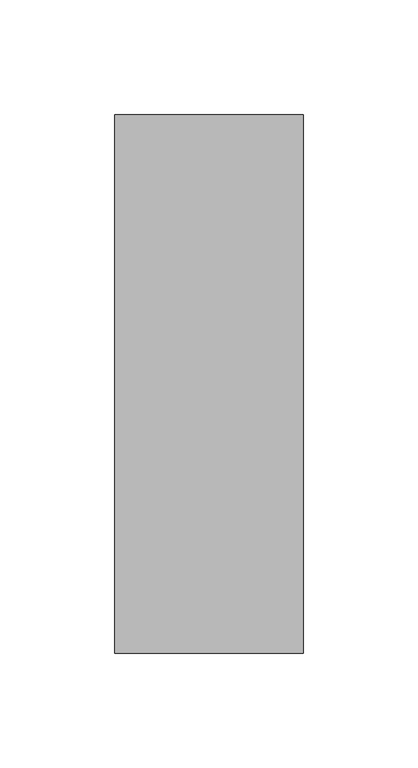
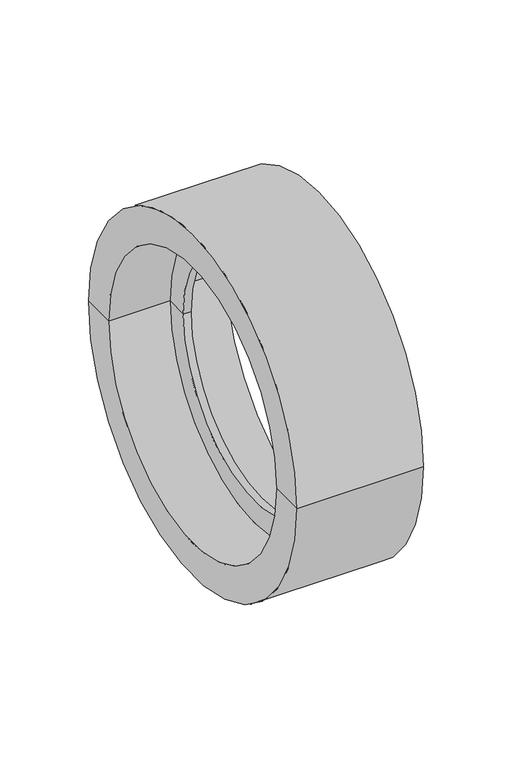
"""IFC4 building model written with IfcOpenShell, lengths in millimetres: duct fitting geometry, NLRS_57_DUF_UN_expander_M&G : ø160/ ø190."""

from ifc_helpers import new_model, si_unit, frame, origin, place, context, project, spatial, polyline, circle_curve, source, transform, mapped, element, save
from ifc_brep_helpers import plane_surface, cylinder_surface, revolved_surface, advanced_brep


def duct_fitting_57cca4c8(model_context):
    return source(origin(), model_context, "Body", "AdvancedBrep", [
        advanced_brep(
        [(-42.5, -117.5, 0.0), (-42.5, 117.5, 0.0), (39.8268393, 117.5, 0.0), (39.8268393, -117.5, 0.0), (-42.5, -95.0, 0.0), (-42.5, 95.0, 0.0), (-2.5, -95.0, 0.0), (-2.5, 95.0, 0.0), (-2.5, -80.0, 0.0), (-2.5, 80.0, 0.0), (2.5, -105.0, 0.0), (2.5, 105.0, 0.0), (2.5, 80.0, 0.0), (2.5, -80.0, 0.0), (39.8268393, -105.0, 0.0), (39.8268393, 105.0, 0.0)],
        [
            (0, 1, circle_curve(frame((-42.5, 0.0, 0.0), z_axis=(1.0, 0.0, 0.0), x_axis=(0.0, 1.0, 0.0)), 117.5)),
            (1, 2),
            (2, 3, circle_curve(frame((39.8268393, 0.0, 0.0), z_axis=(-1.0, 0.0, 0.0), x_axis=(0.0, 1.0, 0.0)), 117.5)),
            (3, 0),
            (1, 0, circle_curve(frame((-42.5, 0.0, 0.0), z_axis=(1.0, 0.0, 0.0), x_axis=(0.0, 1.0, 0.0)), 117.5)),
            (3, 2, circle_curve(frame((39.8268393, 0.0, 0.0), z_axis=(-1.0, 0.0, 0.0), x_axis=(0.0, 1.0, 0.0)), 117.5)),
            (4, 5, circle_curve(frame((-42.5, 0.0, 0.0), z_axis=(1.0, 0.0, 0.0), x_axis=(0.0, 1.0, 0.0)), 95.0)),
            (5, 1),
            (0, 4),
            (5, 4, circle_curve(frame((-42.5, 0.0, 0.0), z_axis=(1.0, 0.0, 0.0), x_axis=(0.0, 1.0, 0.0)), 95.0)),
            (6, 7, circle_curve(frame((-2.5, 0.0, 0.0), z_axis=(1.0, 0.0, 0.0), x_axis=(0.0, 1.0, 0.0)), 95.0)),
            (7, 5),
            (4, 6),
            (7, 6, circle_curve(frame((-2.5, 0.0, 0.0), z_axis=(1.0, 0.0, 0.0), x_axis=(0.0, 1.0, 0.0)), 95.0)),
            (8, 9, circle_curve(frame((-2.5, 0.0, 0.0), z_axis=(1.0, 0.0, 0.0), x_axis=(0.0, 1.0, 0.0)), 80.0)),
            (9, 7),
            (6, 8),
            (9, 8, circle_curve(frame((-2.5, 0.0, 0.0), z_axis=(1.0, 0.0, 0.0), x_axis=(0.0, 1.0, 0.0)), 80.0)),
            (10, 11, circle_curve(frame((2.5, 0.0, 0.0), z_axis=(1.0, 0.0, 0.0), x_axis=(0.0, 1.0, 0.0)), 105.0)),
            (11, 12),
            (12, 13, circle_curve(frame((2.5, 0.0, 0.0), z_axis=(-1.0, 0.0, 0.0), x_axis=(0.0, 1.0, 0.0)), 80.0)),
            (13, 10),
            (11, 10, circle_curve(frame((2.5, 0.0, 0.0), z_axis=(1.0, 0.0, 0.0), x_axis=(0.0, 1.0, 0.0)), 105.0)),
            (13, 12, circle_curve(frame((2.5, 0.0, 0.0), z_axis=(-1.0, 0.0, 0.0), x_axis=(0.0, 1.0, 0.0)), 80.0)),
            (14, 15, circle_curve(frame((39.8268393, 0.0, 0.0), z_axis=(1.0, 0.0, 0.0), x_axis=(0.0, 1.0, 0.0)), 105.0)),
            (15, 11),
            (10, 14),
            (15, 14, circle_curve(frame((39.8268393, 0.0, 0.0), z_axis=(1.0, 0.0, 0.0), x_axis=(0.0, 1.0, 0.0)), 105.0)),
            (2, 15),
            (14, 3),
            (12, 9),
            (8, 13),
        ],
        [
            cylinder_surface(frame((1990.0, 0.0, 0.0), z_axis=(-1.0, 0.0, 0.0), x_axis=(0.0, 1.0, 0.0)), 117.5),
            plane_surface(frame((-42.5, 0.0, 0.0), z_axis=(-1.0, 0.0, 0.0), x_axis=(0.0, 1.0, 0.0))),
            revolved_surface(polyline([(-42.5, 95.0, 0.0), (-2.5, 95.0, 0.0)]), (1990.0, 0.0, 0.0), (-1.0, 0.0, 0.0)),
            plane_surface(frame((-2.5, 0.0, 0.0), z_axis=(-1.0, 0.0, 0.0), x_axis=(0.0, 1.0, 0.0))),
            plane_surface(frame((2.5, 0.0, 0.0), z_axis=(1.0, 0.0, 0.0), x_axis=(0.0, 1.0, 0.0))),
            revolved_surface(polyline([(2.5, 105.0, 0.0), (39.826839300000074, 105.0, 0.0)]), (1990.0, 0.0, 0.0), (-1.0, 0.0, 0.0)),
            plane_surface(frame((39.8268393, 0.0, 0.0), z_axis=(1.0, 0.0, 0.0), x_axis=(0.0, 1.0, 0.0))),
            revolved_surface(polyline([(-2.5, 80.0, 0.0), (2.5, 80.0, 0.0)]), (1990.0, 0.0, 0.0), (-1.0, 0.0, 0.0)),
        ],
        [
            (0, [[1, 2, 3, 4]]),
            (0, [[5, -4, 6, -2]]),
            (1, [[7, 8, -1, 9]]),
            (1, [[10, -9, -5, -8]]),
            (2, [[11, 12, -7, 13]]),
            (2, [[14, -13, -10, -12]]),
            (3, [[15, 16, -11, 17]]),
            (3, [[18, -17, -14, -16]]),
            (4, [[19, 20, 21, 22]]),
            (4, [[23, -22, 24, -20]]),
            (5, [[25, 26, -19, 27]]),
            (5, [[28, -27, -23, -26]]),
            (6, [[-3, 29, -25, 30]]),
            (6, [[-6, -30, -28, -29]]),
            (7, [[-21, 31, -15, 32]]),
            (7, [[-24, -32, -18, -31]]),
        ],
    ),
    ])


if __name__ == "__main__":
    model = new_model("IFC4")
    model_context = context("Model", 3, world=origin())
    ifc_project = project(units=[si_unit("LENGTHUNIT", "METRE", prefix="MILLI")], contexts=[model_context])
    site = spatial("IfcSite", under=ifc_project)
    building = spatial("IfcBuilding", under=site)
    placement = place(None, origin())
    duct_fitting_shape = duct_fitting_57cca4c8(model_context)
    element("IfcDuctFitting", 1, ObjectType="NLRS_57_DUF_UN_expander_M&G : ø160/ ø190", at=placement, inside=building, context=model_context, shape_type="MappedRepresentation", body=[
        mapped(duct_fitting_shape, transform((0.0, 0.0, 0.0), x_axis=(1.0, 0.0, 0.0), y_axis=(0.0, 1.0, 0.0), z_axis=(0.0, 0.0, 1.0))),
    ])
    save(model, "model.ifc")
